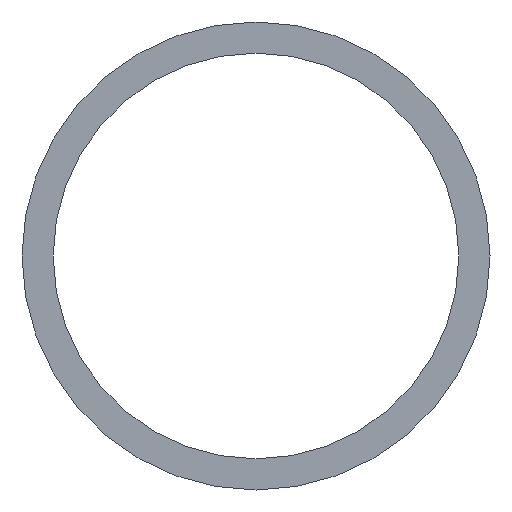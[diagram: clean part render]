
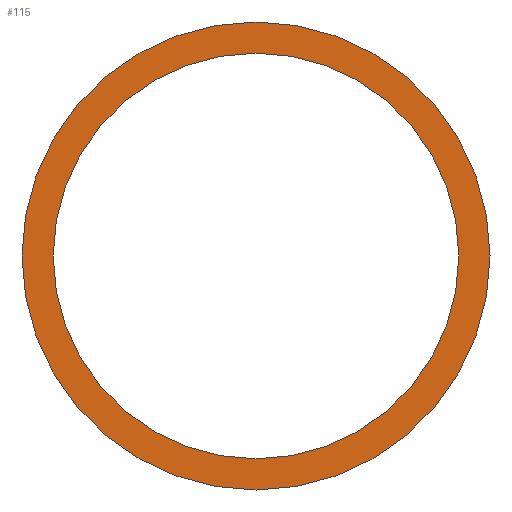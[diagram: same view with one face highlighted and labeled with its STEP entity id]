
A CAD part, front view. The second image highlights one B-rep face of the part: STEP entity #115.
In plain terms, the highlighted planar face has unit normal (0, -1, 0).
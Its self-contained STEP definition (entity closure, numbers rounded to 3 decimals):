
#5 = FACE_BOUND ( 'NONE', #123, .T. ) ;
#6 = AXIS2_PLACEMENT_3D ( 'NONE', #82, #190, #45 ) ;
#8 = DIRECTION ( 'NONE',  ( 0., 1., 0. ) ) ;
#15 = VERTEX_POINT ( 'NONE', #185 ) ;
#17 = CIRCLE ( 'NONE', #151, 13. ) ;
#18 = CIRCLE ( 'NONE', #152, 13. ) ;
#28 = DIRECTION ( 'NONE',  ( 0., 0., 1. ) ) ;
#31 = ORIENTED_EDGE ( 'NONE', *, *, #178, .F. ) ;
#36 = DIRECTION ( 'NONE',  ( 0., 1., 0. ) ) ;
#38 = DIRECTION ( 'NONE',  ( 0., 0., 1. ) ) ;
#39 = DIRECTION ( 'NONE',  ( 0., 1., 0. ) ) ;
#45 = DIRECTION ( 'NONE',  ( 0., 0., 1. ) ) ;
#48 = DIRECTION ( 'NONE',  ( 0., 0., 1. ) ) ;
#49 = EDGE_CURVE ( 'NONE', #139, #122, #18, .T. ) ;
#58 = VERTEX_POINT ( 'NONE', #143 ) ;
#80 = PLANE ( 'NONE',  #212 ) ;
#82 = CARTESIAN_POINT ( 'NONE',  ( 0., 0., 0. ) ) ;
#89 = CARTESIAN_POINT ( 'NONE',  ( 0., 0., 0. ) ) ;
#108 = DIRECTION ( 'NONE',  ( 0., 0., 1. ) ) ;
#115 = ADVANCED_FACE ( 'NONE', ( #157, #5 ), #80, .F. ) ;
#122 = VERTEX_POINT ( 'NONE', #205 ) ;
#123 = EDGE_LOOP ( 'NONE', ( #128, #196 ) ) ;
#128 = ORIENTED_EDGE ( 'NONE', *, *, #49, .T. ) ;
#133 = CARTESIAN_POINT ( 'NONE',  ( 0., 0., -13. ) ) ;
#134 = CARTESIAN_POINT ( 'NONE',  ( 0., 0., 0. ) ) ;
#136 = EDGE_CURVE ( 'NONE', #122, #139, #17, .T. ) ;
#139 = VERTEX_POINT ( 'NONE', #133 ) ;
#143 = CARTESIAN_POINT ( 'NONE',  ( 0., 0., -15. ) ) ;
#149 = CIRCLE ( 'NONE', #160, 15. ) ;
#151 = AXIS2_PLACEMENT_3D ( 'NONE', #134, #8, #28 ) ;
#152 = AXIS2_PLACEMENT_3D ( 'NONE', #89, #39, #38 ) ;
#157 = FACE_OUTER_BOUND ( 'NONE', #158, .T. ) ;
#158 = EDGE_LOOP ( 'NONE', ( #214, #31 ) ) ;
#159 = EDGE_CURVE ( 'NONE', #58, #15, #193, .T. ) ;
#160 = AXIS2_PLACEMENT_3D ( 'NONE', #175, #206, #48 ) ;
#175 = CARTESIAN_POINT ( 'NONE',  ( 0., 0., 0. ) ) ;
#178 = EDGE_CURVE ( 'NONE', #15, #58, #149, .T. ) ;
#182 = CARTESIAN_POINT ( 'NONE',  ( 0., 0., 0. ) ) ;
#185 = CARTESIAN_POINT ( 'NONE',  ( 0., 0., 15. ) ) ;
#190 = DIRECTION ( 'NONE',  ( 0., 1., 0. ) ) ;
#193 = CIRCLE ( 'NONE', #6, 15. ) ;
#196 = ORIENTED_EDGE ( 'NONE', *, *, #136, .T. ) ;
#205 = CARTESIAN_POINT ( 'NONE',  ( 0., 0., 13. ) ) ;
#206 = DIRECTION ( 'NONE',  ( 0., 1., 0. ) ) ;
#212 = AXIS2_PLACEMENT_3D ( 'NONE', #182, #36, #108 ) ;
#214 = ORIENTED_EDGE ( 'NONE', *, *, #159, .F. ) ;
